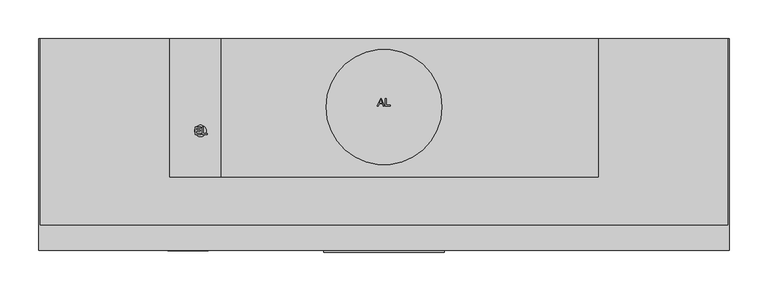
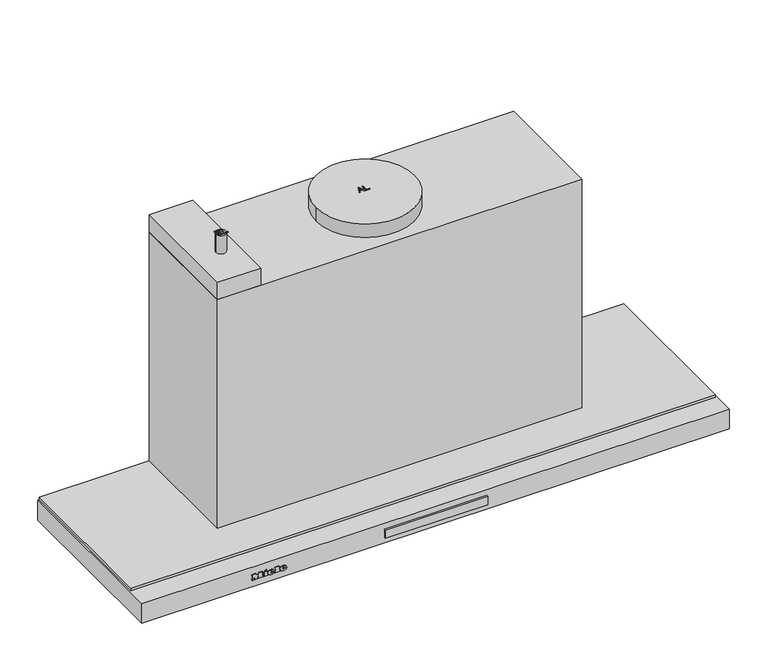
"""IFC4 building model written with IfcOpenShell, lengths in millimetres: proxy geometry, 12506050_D_DAS4920_MASW : 28S4920M_D_12506050_DAS4920_MASW."""

from ifc_helpers import new_model, si_unit, point, frame, frame_2d, origin, origin_with_axes, place, context, project, spatial, polyline, circle_curve, ellipse_curve, trimmed, segment, composite_curve, outline, extrude, faceted_brep, source, transform, mapped, element, save
from ifc_brep_helpers import plane_surface, cylinder_surface, revolved_surface, extruded_surface, advanced_brep


def specialty_equipment_68442821(model_context):
    return source(origin(), model_context, "Body", "SolidModel", [
        extrude(outline(polyline([(78.0, -275.0), (78.0, -277.3978707), (-78.0, -277.3978707), (-78.0, -275.0), (78.0, -275.0)])), frame((0.0, 0.0, -23.0389651), z_axis=(0.0, 0.0, 1.0), x_axis=(1.0, 0.0, 0.0)), (0.0, 0.0, 1.0), 13.3389155),
        advanced_brep(
        [(-233.4590019, -276.0, -18.7681017), (-233.4590019, -276.0, -17.8894017), (-227.6387019, -276.0, -17.8894017), (-237.7655019, -276.0, -17.8894017), (-235.3730019, -276.0, -20.8300017), (-227.7866019, -276.0, -18.7681017), (-230.4140019, -276.0, -18.7681017), (-232.4846019, -276.0, -19.7425017), (-233.4590019, -276.0, -16.7758017), (-233.4590019, -276.0, -15.8275017), (-231.9713019, -276.0, -15.8275017), (-231.9713019, -276.0, -16.7758017), (-233.4590019, -275.0, -18.7681017), (-232.4846019, -275.0, -19.7425017), (-230.4140019, -275.0, -18.7681017), (-227.7866019, -275.0, -18.7681017), (-235.3730019, -275.0, -20.8300017), (-237.7655019, -275.0, -17.8894017), (-227.6387019, -275.0, -17.8894017), (-233.4590019, -275.0, -17.8894017), (-233.4590019, -275.0, -16.7758017), (-231.9713019, -275.0, -16.7758017), (-231.9713019, -275.0, -15.8275017), (-233.4590019, -275.0, -15.8275017)],
        [
            (0, 1),
            (1, 2),
            (2, 3, ellipse_curve(frame((-232.7021019, -276.0, -17.8894017), z_axis=(0.0, -1.0, 0.0), x_axis=(-1.0, 0.0, 0.0)), 5.0634, 4.1847)),
            (3, 4, circle_curve(frame((-234.3985544, -276.0, -17.5936017), z_axis=(0.0, -1.0, 0.0), x_axis=(0.0, 0.0, -1.0)), 3.3799161)),
            (4, 5, circle_curve(frame((-232.8034638, -276.0, -15.2968017), z_axis=(0.0, -1.0, 0.0), x_axis=(0.0, 0.0, -1.0)), 6.1007236)),
            (5, 6),
            (6, 7, circle_curve(frame((-232.0593254, -276.0, -17.9590017), z_axis=(0.0, 1.0, 0.0), x_axis=(0.0, 0.0, -1.0)), 1.8335027)),
            (7, 0, circle_curve(frame((-232.4846019, -276.0, -18.7681017), z_axis=(0.0, 1.0, 0.0), x_axis=(0.0, 0.0, -1.0)), 0.9744)),
            (8, 9),
            (9, 10, circle_curve(frame((-232.7151519, -276.0, -15.8275017), z_axis=(0.0, 1.0, 0.0), x_axis=(0.0, 0.0, -1.0)), 0.74385)),
            (10, 11),
            (11, 8),
            (12, 13, circle_curve(frame((-232.4846019, -275.0, -18.7681017), z_axis=(0.0, -1.0, 0.0), x_axis=(0.0, 0.0, -1.0)), 0.9744)),
            (13, 14, circle_curve(frame((-232.0593254, -275.0, -17.9590017), z_axis=(0.0, -1.0, 0.0), x_axis=(0.0, 0.0, -1.0)), 1.8335027)),
            (14, 15),
            (15, 16, circle_curve(frame((-232.8034638, -275.0, -15.2968017), z_axis=(0.0, 1.0, 0.0), x_axis=(0.0, 0.0, -1.0)), 6.1007236)),
            (16, 17, circle_curve(frame((-234.3985544, -275.0, -17.5936017), z_axis=(0.0, 1.0, 0.0), x_axis=(0.0, 0.0, -1.0)), 3.3799161)),
            (17, 18, ellipse_curve(frame((-232.7021019, -275.0, -17.8894017), z_axis=(0.0, 1.0, 0.0), x_axis=(-1.0, 0.0, 0.0)), 5.0634, 4.1847)),
            (18, 19),
            (19, 12),
            (20, 21),
            (21, 22),
            (22, 23, circle_curve(frame((-232.7151519, -275.0, -15.8275017), z_axis=(0.0, -1.0, 0.0), x_axis=(0.0, 0.0, -1.0)), 0.74385)),
            (23, 20),
            (0, 12),
            (19, 1),
            (18, 2),
            (5, 15),
            (14, 6),
            (17, 3),
            (13, 7),
            (16, 4),
            (8, 20),
            (23, 9),
            (22, 10),
            (21, 11),
        ],
        [
            plane_surface(frame((-233.4590019, -276.0, -17.8894017), z_axis=(0.0, -1.0, 0.0), x_axis=(0.0, 0.0, 1.0))),
            plane_surface(frame((-233.4590019, -275.0, -17.8894017), z_axis=(0.0, 1.0, 0.0), x_axis=(0.0, 0.0, -1.0))),
            plane_surface(frame((-233.4590019, -276.0, -18.7681017), z_axis=(1.0, 0.0, 0.0), x_axis=(0.0, 1.0, 0.0))),
            plane_surface(frame((-233.4590019, -276.0, -17.8894017), z_axis=(0.0, 0.0, -1.0), x_axis=(0.0, 1.0, 0.0))),
            plane_surface(frame((-227.7866019, -276.0, -18.7681017), z_axis=(0.0, 0.0, 1.0), x_axis=(0.0, 1.0, 0.0))),
            extruded_surface(trimmed(ellipse_curve(frame((-232.7021019, -274.0, -17.8894017), z_axis=(0.0, -1.0, 0.0), x_axis=(-1.0, 0.0, 0.0)), 5.0634, 4.1847), [point((-227.6387019, -274.0, -17.8894017))], [point((-237.7655019, -274.0, -17.8894017))], True, "CARTESIAN"), (0.0, -1.0, 0.0), 1.0),
            revolved_surface(polyline([(-232.0593254, -275.0, -19.792504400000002), (-232.0593254, -276.0, -19.792504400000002)]), (-232.0593254, -275.0, -17.9590017), (0.0, 1.0, 0.0)),
            revolved_surface(polyline([(-232.4846019, -275.0, -19.7425017), (-232.4846019, -276.0, -19.7425017)]), (-232.4846019, -275.0, -18.7681017), (0.0, 1.0, 0.0)),
            cylinder_surface(frame((-234.3985544, -275.0, -17.5936017), z_axis=(0.0, -1.0, 0.0), x_axis=(0.0, 0.0, -1.0)), 3.3799161),
            cylinder_surface(frame((-232.8034638, -275.0, -15.2968017), z_axis=(0.0, -1.0, 0.0), x_axis=(0.0, 0.0, -1.0)), 6.1007236),
            plane_surface(frame((-233.4590019, -276.0, -16.7758017), z_axis=(1.0, 0.0, 0.0), x_axis=(0.0, 1.0, 0.0))),
            revolved_surface(polyline([(-232.7151519, -275.0, -16.571351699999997), (-232.7151519, -276.0, -16.571351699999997)]), (-232.7151519, -275.0, -15.8275017), (0.0, 1.0, 0.0)),
            plane_surface(frame((-231.9713019, -276.0, -15.8275017), z_axis=(-1.0, 0.0, 0.0), x_axis=(0.0, 1.0, 0.0))),
            plane_surface(frame((-231.9713019, -276.0, -16.7758017), z_axis=(0.0, 0.0, 1.0), x_axis=(0.0, 1.0, 0.0))),
        ],
        [
            (0, [[1, 2, 3, 4, 5, 6, 7, 8], [9, 10, 11, 12]]),
            (1, [[13, 14, 15, 16, 17, 18, 19, 20], [21, 22, 23, 24]]),
            (2, [[-1, 25, -20, 26]]),
            (3, [[-2, -26, -19, 27]]),
            (4, [[-6, 28, -15, 29]]),
            (5, [[-3, -27, -18, 30]]),
            (6, [[-7, -29, -14, 31]]),
            (7, [[-8, -31, -13, -25]]),
            (8, [[-4, -30, -17, 32]]),
            (9, [[-5, -32, -16, -28]]),
            (10, [[-9, 33, -24, 34]]),
            (11, [[-10, -34, -23, 35]]),
            (12, [[-11, -35, -22, 36]]),
            (13, [[-12, -36, -21, -33]]),
        ],
    ),
        advanced_brep(
        [(-251.6159019, -276.0, -18.7681017), (-251.6159019, -276.0, -17.8894017), (-245.7956019, -276.0, -17.8894017), (-255.9224019, -276.0, -17.8894017), (-253.5299019, -276.0, -20.8300017), (-245.9435019, -276.0, -18.7681017), (-248.5709019, -276.0, -18.7681017), (-250.6415019, -276.0, -19.7425017), (-251.6159019, -276.0, -16.7758017), (-251.6159019, -276.0, -15.8275017), (-250.1282019, -276.0, -15.8275017), (-250.1282019, -276.0, -16.7758017), (-251.6159019, -275.0, -18.7681017), (-250.6415019, -275.0, -19.7425017), (-248.5709019, -275.0, -18.7681017), (-245.9435019, -275.0, -18.7681017), (-253.5299019, -275.0, -20.8300017), (-255.9224019, -275.0, -17.8894017), (-245.7956019, -275.0, -17.8894017), (-251.6159019, -275.0, -17.8894017), (-251.6159019, -275.0, -16.7758017), (-250.1282019, -275.0, -16.7758017), (-250.1282019, -275.0, -15.8275017), (-251.6159019, -275.0, -15.8275017)],
        [
            (0, 1),
            (1, 2),
            (2, 3, ellipse_curve(frame((-250.8590019, -276.0, -17.8894017), z_axis=(0.0, -1.0, 0.0), x_axis=(-1.0, 0.0, 0.0)), 5.0634, 4.1847)),
            (3, 4, circle_curve(frame((-252.5554544, -276.0, -17.5936017), z_axis=(0.0, -1.0, 0.0), x_axis=(0.0, 0.0, -1.0)), 3.3799161)),
            (4, 5, circle_curve(frame((-250.9603638, -276.0, -15.2968017), z_axis=(0.0, -1.0, 0.0), x_axis=(0.0, 0.0, -1.0)), 6.1007236)),
            (5, 6),
            (6, 7, circle_curve(frame((-250.2162254, -276.0, -17.9590017), z_axis=(0.0, 1.0, 0.0), x_axis=(0.0, 0.0, -1.0)), 1.8335027)),
            (7, 0, circle_curve(frame((-250.6415019, -276.0, -18.7681017), z_axis=(0.0, 1.0, 0.0), x_axis=(0.0, 0.0, -1.0)), 0.9744)),
            (8, 9),
            (9, 10, circle_curve(frame((-250.8720519, -276.0, -15.8275017), z_axis=(0.0, 1.0, 0.0), x_axis=(0.0, 0.0, -1.0)), 0.74385)),
            (10, 11),
            (11, 8),
            (12, 13, circle_curve(frame((-250.6415019, -275.0, -18.7681017), z_axis=(0.0, -1.0, 0.0), x_axis=(0.0, 0.0, -1.0)), 0.9744)),
            (13, 14, circle_curve(frame((-250.2162254, -275.0, -17.9590017), z_axis=(0.0, -1.0, 0.0), x_axis=(0.0, 0.0, -1.0)), 1.8335027)),
            (14, 15),
            (15, 16, circle_curve(frame((-250.9603638, -275.0, -15.2968017), z_axis=(0.0, 1.0, 0.0), x_axis=(0.0, 0.0, -1.0)), 6.1007236)),
            (16, 17, circle_curve(frame((-252.5554544, -275.0, -17.5936017), z_axis=(0.0, 1.0, 0.0), x_axis=(0.0, 0.0, -1.0)), 3.3799161)),
            (17, 18, ellipse_curve(frame((-250.8590019, -275.0, -17.8894017), z_axis=(0.0, 1.0, 0.0), x_axis=(-1.0, 0.0, 0.0)), 5.0634, 4.1847)),
            (18, 19),
            (19, 12),
            (20, 21),
            (21, 22),
            (22, 23, circle_curve(frame((-250.8720519, -275.0, -15.8275017), z_axis=(0.0, -1.0, 0.0), x_axis=(0.0, 0.0, -1.0)), 0.74385)),
            (23, 20),
            (0, 12),
            (19, 1),
            (18, 2),
            (5, 15),
            (14, 6),
            (17, 3),
            (13, 7),
            (16, 4),
            (8, 20),
            (23, 9),
            (22, 10),
            (21, 11),
        ],
        [
            plane_surface(frame((-251.6159019, -276.0, -17.8894017), z_axis=(0.0, -1.0, 0.0), x_axis=(0.0, 0.0, 1.0))),
            plane_surface(frame((-251.6159019, -275.0, -17.8894017), z_axis=(0.0, 1.0, 0.0), x_axis=(0.0, 0.0, -1.0))),
            plane_surface(frame((-251.6159019, -276.0, -18.7681017), z_axis=(1.0, 0.0, 0.0), x_axis=(0.0, 1.0, 0.0))),
            plane_surface(frame((-251.6159019, -276.0, -17.8894017), z_axis=(0.0, 0.0, -1.0), x_axis=(0.0, 1.0, 0.0))),
            plane_surface(frame((-245.9435019, -276.0, -18.7681017), z_axis=(0.0, 0.0, 1.0), x_axis=(0.0, 1.0, 0.0))),
            extruded_surface(trimmed(ellipse_curve(frame((-250.8590019, -274.0, -17.8894017), z_axis=(0.0, -1.0, 0.0), x_axis=(-1.0, 0.0, 0.0)), 5.0634, 4.1847), [point((-245.7956019, -274.0, -17.8894017))], [point((-255.9224019, -274.0, -17.8894017))], True, "CARTESIAN"), (0.0, -1.0, 0.0), 1.0),
            revolved_surface(polyline([(-250.2162254, -275.0, -19.792504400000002), (-250.2162254, -276.0, -19.792504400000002)]), (-250.2162254, -275.0, -17.9590017), (0.0, 1.0, 0.0)),
            revolved_surface(polyline([(-250.6415019, -275.0, -19.7425017), (-250.6415019, -276.0, -19.7425017)]), (-250.6415019, -275.0, -18.7681017), (0.0, 1.0, 0.0)),
            cylinder_surface(frame((-252.5554544, -275.0, -17.5936017), z_axis=(0.0, -1.0, 0.0), x_axis=(0.0, 0.0, -1.0)), 3.3799161),
            cylinder_surface(frame((-250.9603638, -275.0, -15.2968017), z_axis=(0.0, -1.0, 0.0), x_axis=(0.0, 0.0, -1.0)), 6.1007236),
            plane_surface(frame((-251.6159019, -276.0, -16.7758017), z_axis=(1.0, 0.0, 0.0), x_axis=(0.0, 1.0, 0.0))),
            revolved_surface(polyline([(-250.8720519, -275.0, -16.571351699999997), (-250.8720519, -276.0, -16.571351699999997)]), (-250.8720519, -275.0, -15.8275017), (0.0, 1.0, 0.0)),
            plane_surface(frame((-250.1282019, -276.0, -15.8275017), z_axis=(-1.0, 0.0, 0.0), x_axis=(0.0, 1.0, 0.0))),
            plane_surface(frame((-250.1282019, -276.0, -16.7758017), z_axis=(0.0, 0.0, 1.0), x_axis=(0.0, 1.0, 0.0))),
        ],
        [
            (0, [[1, 2, 3, 4, 5, 6, 7, 8], [9, 10, 11, 12]]),
            (1, [[13, 14, 15, 16, 17, 18, 19, 20], [21, 22, 23, 24]]),
            (2, [[-1, 25, -20, 26]]),
            (3, [[-2, -26, -19, 27]]),
            (4, [[-6, 28, -15, 29]]),
            (5, [[-3, -27, -18, 30]]),
            (6, [[-7, -29, -14, 31]]),
            (7, [[-8, -31, -13, -25]]),
            (8, [[-4, -30, -17, 32]]),
            (9, [[-5, -32, -16, -28]]),
            (10, [[-9, 33, -24, 34]]),
            (11, [[-10, -34, -23, 35]]),
            (12, [[-11, -35, -22, 36]]),
            (13, [[-12, -36, -21, -33]]),
        ],
    ),
        extrude(outline(polyline([(-12.6433017, -261.1250019), (-14.0527017, -260.4638019), (-12.6781017, -257.5145019), (-11.2687017, -258.1670019), (-12.6433017, -261.1250019)])), frame((0.0, -276.0, 0.0), z_axis=(0.0, 1.0, 0.0), x_axis=(0.0, 0.0, 1.0)), (0.0, 0.0, 1.0), 1.0),
        extrude(outline(polyline([(-14.2441017, -263.2739019), (-15.8014017, -263.2739019), (-15.8014017, -262.2386019), (-19.3684017, -262.2386019), (-19.3684017, -263.2739019), (-20.8300017, -263.2739019), (-20.8300017, -256.4096019), (-19.3684017, -256.4096019), (-19.3684017, -257.4188019), (-14.2441017, -257.4188019), (-14.2441017, -263.2739019)])), frame((0.0, -276.0, 0.0), z_axis=(0.0, 1.0, 0.0), x_axis=(0.0, 0.0, 1.0)), (0.0, 0.0, 1.0), 1.0),
        extrude(outline(polyline([(-13.5481017, -245.3084019), (-13.5481017, -244.2644019), (-19.3684017, -244.2644019), (-19.3684017, -245.3084019), (-20.8300017, -245.3084019), (-20.8300017, -238.2527019), (-19.3684017, -238.2527019), (-19.3684017, -239.3228019), (-12.1300017, -239.3228019), (-12.1300017, -245.3084019), (-13.5481017, -245.3084019)])), frame((0.0, -276.0, 0.0), z_axis=(0.0, 1.0, 0.0), x_axis=(0.0, 0.0, 1.0)), (0.0, 0.0, 1.0), 1.0),
        extrude(outline(polyline([(-13.5481017, -280.6130019), (-13.5481017, -279.5603019), (-19.3684017, -279.5603019), (-19.3684017, -280.6130019), (-20.8300017, -280.6130019), (-20.8300017, -276.7850019), (-19.3684017, -276.7850019), (-19.3684017, -277.8290019), (-15.6719769, -277.8290019), (-20.8300017, -273.9401019), (-15.5772794, -270.0338019), (-19.3684017, -270.0338019), (-19.3684017, -271.1039019), (-20.8300017, -271.1039019), (-20.8300017, -264.1613019), (-19.3684017, -264.1613019), (-19.3684017, -265.2662019), (-13.5481017, -265.2662019), (-13.5481017, -264.1613019), (-12.1300017, -264.1613019), (-12.1300017, -269.4596019), (-15.3925017, -272.0000019), (-12.1300017, -274.5491019), (-12.1300017, -280.6130019), (-13.5481017, -280.6130019)])), frame((0.0, -276.0, 0.0), z_axis=(0.0, 1.0, 0.0), x_axis=(0.0, 0.0, 1.0)), (0.0, 0.0, 1.0), 1.0),
        extrude(outline(polyline([(278.0, -180.0), (-278.0, -180.0), (-278.0, 0.0), (278.0, 0.0), (278.0, -180.0)])), frame((0.0, 0.0, 4.0), z_axis=(0.0, 0.0, 1.0), x_axis=(1.0, 0.0, 0.0)), (0.0, 0.0, 1.0), 369.0),
        extrude(outline(composite_curve([segment(trimmed(circle_curve(frame_2d((0.0, -89.0)), 75.0), [point((-75.0, -89.0))], [point((75.0, -89.0))], False, "CARTESIAN"), True, "CONTINUOUS"), segment(trimmed(circle_curve(frame_2d((0.0, -89.0)), 75.0), [point((75.0, -89.0))], [point((-75.0, -89.0))], False, "CARTESIAN"), True, "CONTINUOUS")], self_intersect=False)), frame((0.0, 0.0, 373.0), z_axis=(0.0, 0.0, 1.0), x_axis=(1.0, 0.0, 0.0)), (0.0, 0.0, 1.0), 22.0),
        extrude(outline(polyline([(-278.0, -180.0), (-278.0, 0.0), (-212.0, 0.0), (-212.0, -180.0), (-278.0, -180.0)])), frame((0.0, 0.0, 373.0), z_axis=(0.0, 0.0, 1.0), x_axis=(1.0, 0.0, 0.0)), (0.0, 0.0, 1.0), 28.0),
        extrude(outline(polyline([(-8.5446725, -87.975609), (-4.5347587, -77.929978), (-3.4654484, -77.929978), (0.5420128, -87.975609), (-0.7848149, -87.975609), (-1.9326067, -84.8363493), (-6.0725055, -84.8363493), (-7.2202973, -87.975609), (-8.5446725, -87.975609)]), holes=[polyline([(-5.6114267, -83.5806455), (-2.391233, -83.5806455), (-3.2986752, -81.110931), (-4.0025561, -79.1856819), (-4.6279555, -80.8951069), (-5.6114267, -83.5806455)])]), frame((0.0, 0.0, 395.0), z_axis=(0.0, 0.0, 1.0), x_axis=(1.0, 0.0, 0.0)), (0.0, 0.0, 1.0), 1.0),
        extrude(outline(polyline([(1.8835558, -87.975609), (1.8835558, -77.929978), (3.1392597, -77.929978), (3.1392597, -86.7199052), (8.1620752, -86.7199052), (8.1620752, -87.975609), (1.8835558, -87.975609)])), frame((0.0, 0.0, 395.0), z_axis=(0.0, 0.0, 1.0), x_axis=(1.0, 0.0, 0.0)), (0.0, 0.0, 1.0), 1.0),
        extrude(outline(polyline([(446.0, 0.0), (446.0, -242.0), (-446.0, -242.0), (-446.0, 0.0), (446.0, 0.0)])), origin_with_axes(), (0.0, 0.0, 1.0), 4.0),
        extrude(outline(polyline([(120.0, -19.25), (120.0, -31.75), (-120.0, -31.75), (-120.0, -19.25), (120.0, -19.25)])), frame((0.0, 0.0, -23.0), z_axis=(0.0, 0.0, 1.0), x_axis=(1.0, 0.0, 0.0)), (0.0, 0.0, 1.0), 1.785426),
        extrude(outline(polyline([(331.0813184, -268.0), (331.0813184, -246.0), (399.0, -246.0), (399.0, -268.0), (331.0813184, -268.0)])), frame((0.0, 0.0, -33.3019181), z_axis=(0.0, 0.0, 1.0), x_axis=(1.0, 0.0, 0.0)), (0.0, 0.0, 1.0), 1.3019181),
        extrude(outline(polyline([(-399.0, -268.0), (-399.0, -246.0), (-331.0, -246.0), (-331.0, -268.0), (-399.0, -268.0)])), frame((0.0, 0.0, -33.3019181), z_axis=(0.0, 0.0, 1.0), x_axis=(1.0, 0.0, 0.0)), (0.0, 0.0, 1.0), 1.3019181),
        extrude(outline(composite_curve([segment(trimmed(circle_curve(frame_2d((-238.0, -120.0)), 7.5), [point((-230.5, -120.0))], [point((-245.5, -120.0))], False, "CARTESIAN"), True, "CONTINUOUS"), segment(trimmed(circle_curve(frame_2d((-238.0, -120.0)), 7.5), [point((-245.5, -120.0))], [point((-230.5, -120.0))], False, "CARTESIAN"), True, "CONTINUOUS")], self_intersect=False)), frame((0.0, 0.0, 401.0), z_axis=(0.0, 0.0, 1.0), x_axis=(1.0, 0.0, 0.0)), (0.0, 0.0, 1.0), 30.0),
        extrude(outline(polyline([(-235.640443, -124.9184735), (-235.640443, -114.8728425), (-234.3847391, -114.8728425), (-234.3847391, -123.6627696), (-229.3619236, -123.6627696), (-229.3619236, -124.9184735), (-235.640443, -124.9184735)])), frame((0.0, 0.0, 431.0), z_axis=(0.0, 0.0, 1.0), x_axis=(1.0, 0.0, 0.0)), (0.0, 0.0, 1.0), 1.0),
        extrude(outline(polyline([(-244.9012591, -124.9184735), (-244.9012591, -114.8728425), (-237.6809618, -114.8728425), (-237.6809618, -116.1285464), (-243.6455552, -116.1285464), (-243.6455552, -119.1108431), (-237.9948878, -119.1108431), (-237.9948878, -120.366547), (-243.6455552, -120.366547), (-243.6455552, -123.6627696), (-237.5239988, -123.6627696), (-237.5239988, -124.9184735), (-244.9012591, -124.9184735)])), frame((0.0, 0.0, 431.0), z_axis=(0.0, 0.0, 1.0), x_axis=(1.0, 0.0, 0.0)), (0.0, 0.0, 1.0), 1.0),
        extrude(outline(polyline([(-448.0, 0.0), (-413.0, 0.0), (-413.0, -242.0), (413.0, -242.0), (413.0, 0.0), (448.0, 0.0), (448.0, -275.0), (-448.0, -275.0), (-448.0, 0.0)])), frame((0.0, 0.0, -32.0), z_axis=(0.0, 0.0, 1.0), x_axis=(1.0, 0.0, 0.0)), (0.0, 0.0, 1.0), 32.0),
        faceted_brep([(-126.0, -39.0, -24.0), (-126.0, -39.0, 0.0), (126.0, -39.0, 0.0), (126.0, -39.0, -24.0), (-126.0, -12.0, -24.0), (-126.0, -12.0, 0.0), (126.0, -12.0, -24.0), (126.0, -12.0, 0.0), (-413.0, -242.0, 0.0), (-413.0, 0.0, 0.0), (-413.0, 0.0, -24.0), (-413.0, -52.0, -24.0), (-413.0, -52.0, -25.0), (-413.0, -242.0, -25.0), (413.0, -52.0, -25.0), (413.0, -242.0, -25.0), (413.0, -52.0, -24.0), (413.0, 0.0, -24.0), (413.0, 0.0, 0.0), (413.0, -242.0, 0.0)], [[[0, 1, 2, 3]], [[4, 5, 1, 0]], [[6, 7, 5, 4]], [[8, 9, 10, 11, 12, 13]], [[13, 12, 14, 15]], [[16, 11, 10, 17], [6, 4, 0, 3]], [[11, 16, 14, 12]], [[18, 9, 8, 19], [5, 7, 2, 1]], [[9, 18, 17, 10]], [[19, 8, 13, 15]], [[18, 19, 15, 14, 16, 17]], [[7, 6, 3, 2]]]),
        extrude(outline(polyline([(126.0, -12.0), (126.0, -39.0), (-126.0, -39.0), (-126.0, -12.0), (126.0, -12.0)]), holes=[polyline([(120.0, -19.25), (-120.0, -19.25), (-120.0, -31.75), (120.0, -31.75), (120.0, -19.25)])]), frame((0.0, 0.0, -21.214574), z_axis=(0.0, 0.0, 1.0), x_axis=(1.0, 0.0, 0.0)), (0.0, 0.0, 1.0), 21.214574),
    ])


if __name__ == "__main__":
    model = new_model("IFC4")
    model_context = context("Model", 3, world=origin())
    ifc_project = project(units=[si_unit("LENGTHUNIT", "METRE", prefix="MILLI")], contexts=[model_context])
    site = spatial("IfcSite", under=ifc_project)
    building = spatial("IfcBuilding", under=site)
    placement = place(None, origin())
    specialty_equipment_shape = specialty_equipment_68442821(model_context)
    element("IfcBuildingElementProxy", 1, Name="12506050_D_DAS4920_MASW : 28S4920M_D_12506050_DAS4920_MASW", ObjectType="12506050_D_DAS4920_MASW : 28S4920M_D_12506050_DAS4920_MASW", at=placement, inside=building, context=model_context, shape_type="MappedRepresentation", body=[
        mapped(specialty_equipment_shape, transform((0.0, 0.0, 0.0), x_axis=(1.0, 0.0, 0.0), y_axis=(0.0, 1.0, 0.0), z_axis=(0.0, 0.0, 1.0))),
    ])
    save(model, "model.ifc")
